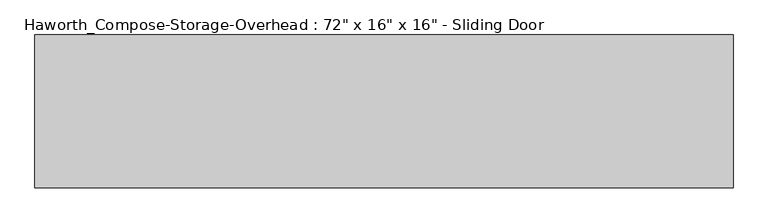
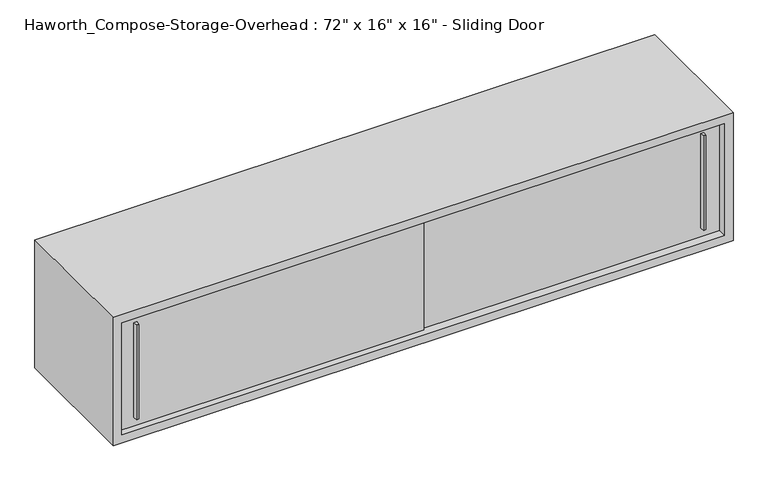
"""IFC4 building model written with IfcOpenShell, lengths in millimetres: furniture geometry."""

from ifc_helpers import new_model, si_unit, frame, origin, place, context, project, spatial, polyline, outline, extrude, source, transform, mapped, element, save


def furniture_40356f10(model_context):
    return source(origin(), model_context, "Body", "SweptSolid", [
        extrude(outline(polyline([(1006.4750004, -387.3499879), (1000.1249996, -387.3499879), (998.5375011, -374.65), (1008.0624989, -374.65), (1006.4750004, -387.3499879)])), frame((0.0, 0.0, 1322.3875), z_axis=(0.0, 0.0, 1.0), x_axis=(1.0, 0.0, 0.0)), (0.0, 0.0, 1.0), 295.275),
        extrude(outline(polyline([(-669.9249996, -393.6999879), (-676.2750004, -393.6999879), (-677.8624989, -381.0), (-668.3375011, -381.0), (-669.9249996, -393.6999879)])), frame((0.0, 0.0, 1322.3875), z_axis=(0.0, 0.0, 1.0), x_axis=(1.0, 0.0, 0.0)), (0.0, 0.0, 1.0), 295.275),
        extrude(outline(polyline([(-723.9, -374.65), (177.8, -374.65), (177.8, -381.0), (-723.9, -381.0), (-723.9, -374.65)])), frame((0.0, 0.0, 1295.4), z_axis=(0.0, 0.0, 1.0), x_axis=(1.0, 0.0, 0.0)), (0.0, 0.0, 1.0), 349.25),
        extrude(outline(polyline([(152.4, -368.3), (1054.1, -368.3), (1054.1, -374.65), (152.4, -374.65), (152.4, -368.3)])), frame((0.0, 0.0, 1295.4), z_axis=(0.0, 0.0, 1.0), x_axis=(1.0, 0.0, 0.0)), (0.0, 0.0, 1.0), 349.25),
        extrude(outline(polyline([(1054.1, -6.35), (-723.9, -6.35), (-723.9, 0.0), (1054.1, 0.0), (1054.1, -6.35)])), frame((0.0, 0.0, 1295.4), z_axis=(0.0, 0.0, 1.0), x_axis=(1.0, 0.0, 0.0)), (0.0, 0.0, 1.0), 349.25),
        extrude(outline(polyline([(1270.0, 1079.5), (1670.05, 1079.5), (1670.05, -749.3), (1270.0, -749.3), (1270.0, 1079.5)]), holes=[polyline([(1644.65, 1054.1), (1295.4, 1054.1), (1295.4, -723.9), (1644.65, -723.9), (1644.65, 1054.1)])]), frame((0.0, -400.05, 0.0), z_axis=(0.0, 1.0, 0.0), x_axis=(0.0, 0.0, 1.0)), (0.0, 0.0, 1.0), 400.05),
    ])


if __name__ == "__main__":
    model = new_model("IFC4")
    model_context = context("Model", 3, world=origin())
    ifc_project = project(units=[si_unit("LENGTHUNIT", "METRE", prefix="MILLI")], contexts=[model_context])
    site = spatial("IfcSite", under=ifc_project)
    building = spatial("IfcBuilding", under=site)
    placement = place(None, origin())
    furniture_shape = furniture_40356f10(model_context)
    element("IfcFurniture", 1, ObjectType="Haworth_Compose-Storage-Overhead : 72\" x 16\" x 16\" - Sliding Door", at=placement, inside=building, context=model_context, shape_type="MappedRepresentation", body=[
        mapped(furniture_shape, transform((0.0, 0.0, 0.0), x_axis=(1.0, 0.0, 0.0), y_axis=(0.0, 1.0, 0.0), z_axis=(0.0, 0.0, 1.0))),
    ])
    save(model, "model.ifc")
